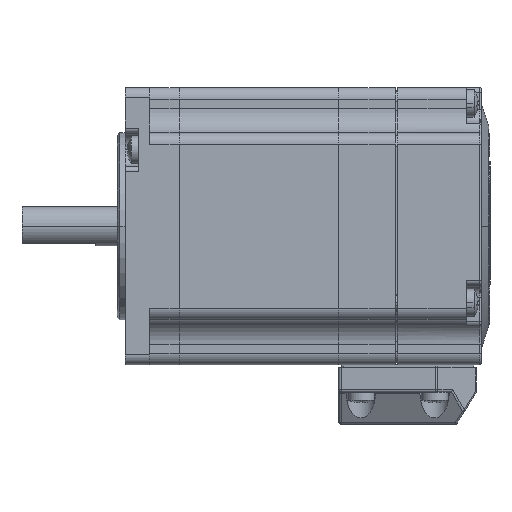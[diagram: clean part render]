
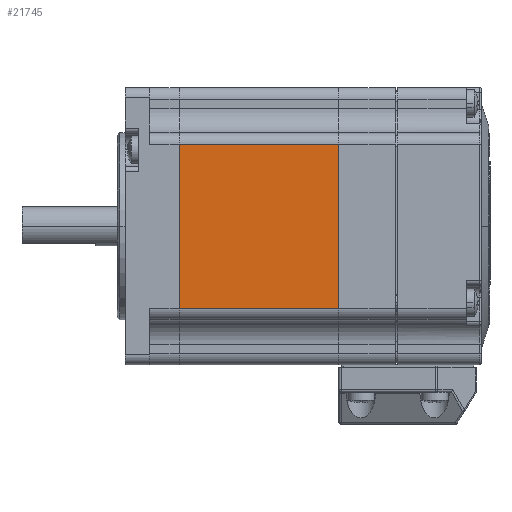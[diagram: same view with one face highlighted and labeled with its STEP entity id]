
A CAD part, front view. The second image highlights one B-rep face of the part: STEP entity #21745.
In plain terms, the highlighted planar face has unit normal (0, -1, 0).
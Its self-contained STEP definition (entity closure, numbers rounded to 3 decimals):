
#1516 = CARTESIAN_POINT ( 'NONE',  ( 32.5, -56.4, 2. ) ) ;
#2949 = EDGE_CURVE ( 'NONE', #92009, #98875, #37395, .T. ) ;
#5563 = DIRECTION ( 'NONE',  ( 0., 0., -1. ) ) ;
#8473 = DIRECTION ( 'NONE',  ( -1., 0., 0. ) ) ;
#10269 = LINE ( 'NONE', #90335, #76138 ) ;
#11030 = ORIENTED_EDGE ( 'NONE', *, *, #2949, .F. ) ;
#17640 = VECTOR ( 'NONE', #26569, 1000. ) ;
#19037 = EDGE_LOOP ( 'NONE', ( #11030, #40002, #21249, #26019 ) ) ;
#21249 = ORIENTED_EDGE ( 'NONE', *, *, #103017, .T. ) ;
#21745 = ADVANCED_FACE ( 'NONE', ( #67559 ), #92025, .F. ) ;
#26019 = ORIENTED_EDGE ( 'NONE', *, *, #48986, .T. ) ;
#26569 = DIRECTION ( 'NONE',  ( 0., 0., -1. ) ) ;
#37395 = LINE ( 'NONE', #46416, #91467 ) ;
#37463 = LINE ( 'NONE', #1516, #17640 ) ;
#40002 = ORIENTED_EDGE ( 'NONE', *, *, #43417, .F. ) ;
#40432 = CARTESIAN_POINT ( 'NONE',  ( 32.5, -56.4, 2. ) ) ;
#43417 = EDGE_CURVE ( 'NONE', #71909, #92009, #37463, .T. ) ;
#46416 = CARTESIAN_POINT ( 'NONE',  ( -42.5, -56.4, 11.5 ) ) ;
#48986 = EDGE_CURVE ( 'NONE', #52769, #98875, #10269, .T. ) ;
#49706 = DIRECTION ( 'NONE',  ( -1., 0., 0. ) ) ;
#52769 = VERTEX_POINT ( 'NONE', #78743 ) ;
#54393 = CARTESIAN_POINT ( 'NONE',  ( 32.5, -56.4, 44.9 ) ) ;
#62200 = VECTOR ( 'NONE', #8473, 1000. ) ;
#67559 = FACE_OUTER_BOUND ( 'NONE', #19037, .T. ) ;
#68254 = AXIS2_PLACEMENT_3D ( 'NONE', #40432, #99805, #99071 ) ;
#71909 = VERTEX_POINT ( 'NONE', #54393 ) ;
#75886 = CARTESIAN_POINT ( 'NONE',  ( -42.5, -56.4, 44.9 ) ) ;
#76138 = VECTOR ( 'NONE', #5563, 1000. ) ;
#78743 = CARTESIAN_POINT ( 'NONE',  ( 0., -56.4, 44.9 ) ) ;
#79181 = CARTESIAN_POINT ( 'NONE',  ( 32.5, -56.4, 11.5 ) ) ;
#90335 = CARTESIAN_POINT ( 'NONE',  ( 0., -56.4, 2. ) ) ;
#91467 = VECTOR ( 'NONE', #49706, 1000. ) ;
#92009 = VERTEX_POINT ( 'NONE', #79181 ) ;
#92025 = PLANE ( 'NONE',  #68254 ) ;
#98875 = VERTEX_POINT ( 'NONE', #101988 ) ;
#99071 = DIRECTION ( 'NONE',  ( 1., 0., 0. ) ) ;
#99805 = DIRECTION ( 'NONE',  ( 0., 1., 0. ) ) ;
#101817 = LINE ( 'NONE', #75886, #62200 ) ;
#101988 = CARTESIAN_POINT ( 'NONE',  ( 0., -56.4, 11.5 ) ) ;
#103017 = EDGE_CURVE ( 'NONE', #71909, #52769, #101817, .T. ) ;
